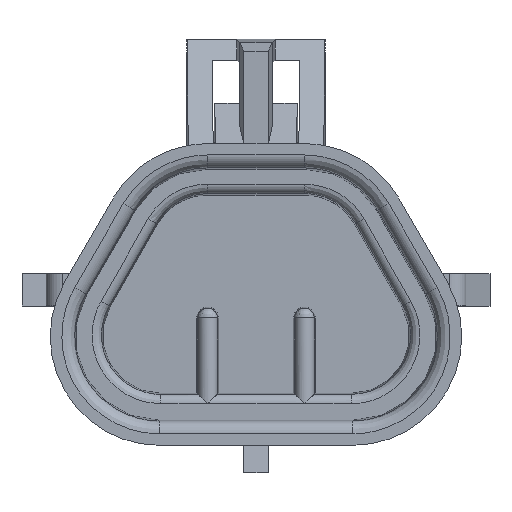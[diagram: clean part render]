
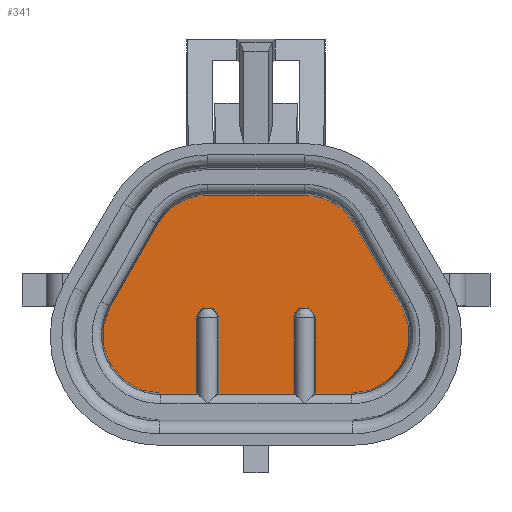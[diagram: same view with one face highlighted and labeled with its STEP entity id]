
A CAD part, top view. The second image highlights one B-rep face of the part: STEP entity #341.
In plain terms, the highlighted planar face has unit normal (0, 0, 1).
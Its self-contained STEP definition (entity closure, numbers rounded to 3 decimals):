
#205=PLANE('',#3267);
#341=ADVANCED_FACE('',(#521),#205,.T.);
#521=FACE_OUTER_BOUND('',#683,.T.);
#683=EDGE_LOOP('',(#1973,#1974,#1975,#1976,#1977,#1978,#1979,#1980,#1981,
#1982,#1983,#1984,#1985,#1986,#1987,#1988));
#899=LINE('',#4742,#1231);
#903=LINE('',#4752,#1235);
#907=LINE('',#4806,#1239);
#908=LINE('',#4809,#1240);
#912=LINE('',#4819,#1244);
#927=LINE('',#4856,#1259);
#993=LINE('',#5094,#1325);
#998=LINE('',#5152,#1330);
#999=LINE('',#5154,#1331);
#1000=LINE('',#5158,#1332);
#1231=VECTOR('',#3671,1.);
#1235=VECTOR('',#3679,1.);
#1239=VECTOR('',#3689,1.);
#1240=VECTOR('',#3694,1.);
#1244=VECTOR('',#3704,1.);
#1259=VECTOR('',#3731,1.);
#1325=VECTOR('',#3891,1.);
#1330=VECTOR('',#3906,1.);
#1331=VECTOR('',#3907,1.);
#1332=VECTOR('',#3910,1.);
#1973=ORIENTED_EDGE('',*,*,#2925,.T.);
#1974=ORIENTED_EDGE('',*,*,#2926,.F.);
#1975=ORIENTED_EDGE('',*,*,#2927,.T.);
#1976=ORIENTED_EDGE('',*,*,#2928,.T.);
#1977=ORIENTED_EDGE('',*,*,#2929,.T.);
#1978=ORIENTED_EDGE('',*,*,#2930,.T.);
#1979=ORIENTED_EDGE('',*,*,#2918,.T.);
#1980=ORIENTED_EDGE('',*,*,#2871,.T.);
#1981=ORIENTED_EDGE('',*,*,#2811,.T.);
#1982=ORIENTED_EDGE('',*,*,#2808,.F.);
#1983=ORIENTED_EDGE('',*,*,#2806,.F.);
#1984=ORIENTED_EDGE('',*,*,#2804,.T.);
#1985=ORIENTED_EDGE('',*,*,#2801,.F.);
#1986=ORIENTED_EDGE('',*,*,#2798,.F.);
#1987=ORIENTED_EDGE('',*,*,#2793,.T.);
#1988=ORIENTED_EDGE('',*,*,#2828,.T.);
#2456=VERTEX_POINT('',#4741);
#2457=VERTEX_POINT('',#4743);
#2459=VERTEX_POINT('',#4749);
#2461=VERTEX_POINT('',#4755);
#2464=VERTEX_POINT('',#4804);
#2465=VERTEX_POINT('',#4810);
#2466=VERTEX_POINT('',#4814);
#2467=VERTEX_POINT('',#4818);
#2476=VERTEX_POINT('',#4855);
#2498=VERTEX_POINT('',#4992);
#2530=VERTEX_POINT('',#5095);
#2534=VERTEX_POINT('',#5149);
#2535=VERTEX_POINT('',#5153);
#2536=VERTEX_POINT('',#5155);
#2537=VERTEX_POINT('',#5157);
#2538=VERTEX_POINT('',#5159);
#2793=EDGE_CURVE('',#2457,#2456,#899,.T.);
#2798=EDGE_CURVE('',#2457,#2459,#903,.T.);
#2801=EDGE_CURVE('',#2459,#2461,#3073,.T.);
#2804=EDGE_CURVE('',#2464,#2461,#907,.T.);
#2806=EDGE_CURVE('',#2464,#2465,#908,.T.);
#2808=EDGE_CURVE('',#2465,#2466,#3074,.T.);
#2811=EDGE_CURVE('',#2467,#2466,#912,.T.);
#2828=EDGE_CURVE('',#2456,#2476,#927,.T.);
#2871=EDGE_CURVE('',#2498,#2467,#3079,.T.);
#2918=EDGE_CURVE('',#2530,#2498,#993,.T.);
#2925=EDGE_CURVE('',#2476,#2534,#3086,.T.);
#2926=EDGE_CURVE('',#2535,#2534,#998,.T.);
#2927=EDGE_CURVE('',#2535,#2536,#999,.T.);
#2928=EDGE_CURVE('',#2536,#2537,#3087,.T.);
#2929=EDGE_CURVE('',#2537,#2538,#1000,.T.);
#2930=EDGE_CURVE('',#2538,#2530,#3088,.T.);
#3073=CIRCLE('',#3200,0.679);
#3074=CIRCLE('',#3205,3.59);
#3079=CIRCLE('',#3239,3.59);
#3086=CIRCLE('',#3263,0.679);
#3087=CIRCLE('',#3265,3.59);
#3088=CIRCLE('',#3266,3.59);
#3200=AXIS2_PLACEMENT_3D('',#4800,#3683,#3684);
#3205=AXIS2_PLACEMENT_3D('',#4813,#3698,#3699);
#3239=AXIS2_PLACEMENT_3D('',#4991,#3813,#3814);
#3263=AXIS2_PLACEMENT_3D('',#5150,#3902,#3903);
#3265=AXIS2_PLACEMENT_3D('',#5156,#3908,#3909);
#3266=AXIS2_PLACEMENT_3D('',#5160,#3911,#3912);
#3267=AXIS2_PLACEMENT_3D('',#5161,#3913,#3914);
#3671=DIRECTION('',(1.,0.,0.));
#3679=DIRECTION('',(0.,1.,0.));
#3683=DIRECTION('',(0.,0.,1.));
#3684=DIRECTION('',(0.,1.,0.));
#3689=DIRECTION('',(0.,1.,0.));
#3694=DIRECTION('',(-1.,0.,0.));
#3698=DIRECTION('',(0.,0.,-1.));
#3699=DIRECTION('',(0.,1.,0.));
#3704=DIRECTION('',(-0.495,-0.869,0.));
#3731=DIRECTION('',(0.,1.,0.));
#3813=DIRECTION('',(0.,0.,1.));
#3814=DIRECTION('',(0.,1.,0.));
#3891=DIRECTION('',(-1.,0.,0.));
#3902=DIRECTION('',(0.,0.,-1.));
#3903=DIRECTION('',(0.,-1.,0.));
#3906=DIRECTION('',(0.,1.,0.));
#3907=DIRECTION('',(1.,0.,0.));
#3908=DIRECTION('',(0.,0.,1.));
#3909=DIRECTION('',(0.,1.,0.));
#3910=DIRECTION('',(-0.495,0.869,0.));
#3911=DIRECTION('',(0.,0.,1.));
#3912=DIRECTION('',(0.,1.,0.));
#3913=DIRECTION('',(0.,0.,1.));
#3914=DIRECTION('',(0.,1.,0.));
#4741=CARTESIAN_POINT('',(2.321,-6.145,-8.666));
#4742=CARTESIAN_POINT('',(-5.91,-6.145,-8.666));
#4743=CARTESIAN_POINT('',(-2.321,-6.145,-8.666));
#4749=CARTESIAN_POINT('',(-2.321,-1.484,-8.666));
#4752=CARTESIAN_POINT('',(-2.321,-6.226,-8.666));
#4755=CARTESIAN_POINT('',(-3.679,-1.484,-8.666));
#4800=CARTESIAN_POINT('',(-3.,-1.484,-8.666));
#4804=CARTESIAN_POINT('',(-3.679,-6.145,-8.666));
#4806=CARTESIAN_POINT('',(-3.679,-2.555,-8.666));
#4809=CARTESIAN_POINT('',(0.,-6.145,-8.666));
#4810=CARTESIAN_POINT('',(-5.91,-6.145,-8.666));
#4813=CARTESIAN_POINT('',(-5.91,-2.555,-8.666));
#4814=CARTESIAN_POINT('',(-9.03,-0.778,-8.666));
#4818=CARTESIAN_POINT('',(-6.12,4.332,-8.666));
#4819=CARTESIAN_POINT('',(-7.575,1.777,-8.666));
#4855=CARTESIAN_POINT('',(2.321,-1.484,-8.666));
#4856=CARTESIAN_POINT('',(2.321,-3.98,-8.666));
#4991=CARTESIAN_POINT('',(-3.,2.555,-8.666));
#4992=CARTESIAN_POINT('',(-3.,6.145,-8.666));
#5094=CARTESIAN_POINT('',(0.,6.145,-8.666));
#5095=CARTESIAN_POINT('',(3.,6.145,-8.666));
#5149=CARTESIAN_POINT('',(3.679,-1.484,-8.666));
#5150=CARTESIAN_POINT('',(3.,-1.484,-8.666));
#5152=CARTESIAN_POINT('',(3.679,-6.226,-8.666));
#5153=CARTESIAN_POINT('',(3.679,-6.145,-8.666));
#5154=CARTESIAN_POINT('',(-5.91,-6.145,-8.666));
#5155=CARTESIAN_POINT('',(5.91,-6.145,-8.666));
#5156=CARTESIAN_POINT('',(5.91,-2.555,-8.666));
#5157=CARTESIAN_POINT('',(9.03,-0.778,-8.666));
#5158=CARTESIAN_POINT('',(7.575,1.777,-8.666));
#5159=CARTESIAN_POINT('',(6.12,4.332,-8.666));
#5160=CARTESIAN_POINT('',(3.,2.555,-8.666));
#5161=CARTESIAN_POINT('',(-5.91,-2.555,-8.666));
